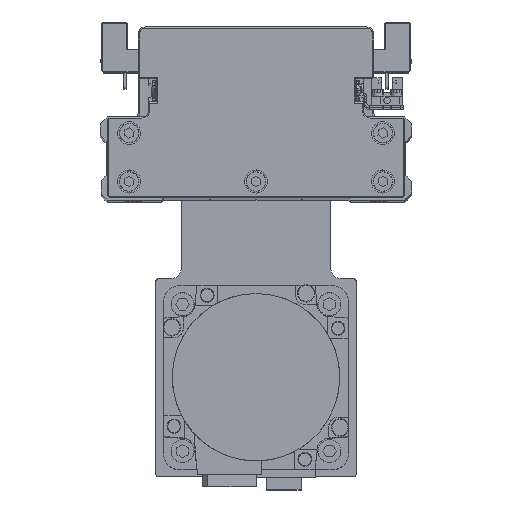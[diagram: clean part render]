
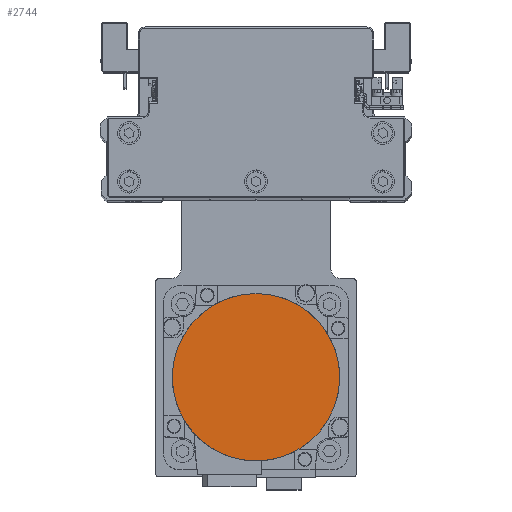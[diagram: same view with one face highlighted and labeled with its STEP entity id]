
A CAD part, top view. The second image highlights one B-rep face of the part: STEP entity #2744.
In plain terms, the highlighted planar face has unit normal (0, 0, 1) as drawn and (0, 0, -1) by its records, which use the part's own axes.
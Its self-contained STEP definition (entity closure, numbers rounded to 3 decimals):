
#151 = DIRECTION ( 'NONE',  ( 0., -1., 0. ) ) ;
#1653 = DIRECTION ( 'NONE',  ( 0., 0., 1. ) ) ;
#2744 = ADVANCED_FACE ( 'NONE', ( #4678 ), #16939, .F. ) ;
#3568 = EDGE_LOOP ( 'NONE', ( #14092, #28769 ) ) ;
#4678 = FACE_OUTER_BOUND ( 'NONE', #3568, .T. ) ;
#5770 = CARTESIAN_POINT ( 'NONE',  ( 0., -36.3, -122.2 ) ) ;
#5790 = CIRCLE ( 'NONE', #28239, 36.3 ) ;
#9407 = AXIS2_PLACEMENT_3D ( 'NONE', #29189, #1653, #13940 ) ;
#10145 = EDGE_CURVE ( 'NONE', #24513, #14689, #37494, .T. ) ;
#12153 = DIRECTION ( 'NONE',  ( 0., 1., 0. ) ) ;
#13940 = DIRECTION ( 'NONE',  ( 1., 0., 0. ) ) ;
#14092 = ORIENTED_EDGE ( 'NONE', *, *, #10145, .F. ) ;
#14689 = VERTEX_POINT ( 'NONE', #5770 ) ;
#15446 = CARTESIAN_POINT ( 'NONE',  ( 0., 0., -122.2 ) ) ;
#16939 = PLANE ( 'NONE',  #9407 ) ;
#19668 = EDGE_CURVE ( 'NONE', #14689, #24513, #5790, .T. ) ;
#20170 = AXIS2_PLACEMENT_3D ( 'NONE', #27425, #39637, #12153 ) ;
#24513 = VERTEX_POINT ( 'NONE', #35430 ) ;
#27425 = CARTESIAN_POINT ( 'NONE',  ( 0., 0., -122.2 ) ) ;
#27687 = DIRECTION ( 'NONE',  ( 0., 0., 1. ) ) ;
#28239 = AXIS2_PLACEMENT_3D ( 'NONE', #15446, #27687, #151 ) ;
#28769 = ORIENTED_EDGE ( 'NONE', *, *, #19668, .F. ) ;
#29189 = CARTESIAN_POINT ( 'NONE',  ( 0., 0., -122.2 ) ) ;
#35430 = CARTESIAN_POINT ( 'NONE',  ( 0., 36.3, -122.2 ) ) ;
#37494 = CIRCLE ( 'NONE', #20170, 36.3 ) ;
#39637 = DIRECTION ( 'NONE',  ( 0., 0., 1. ) ) ;
